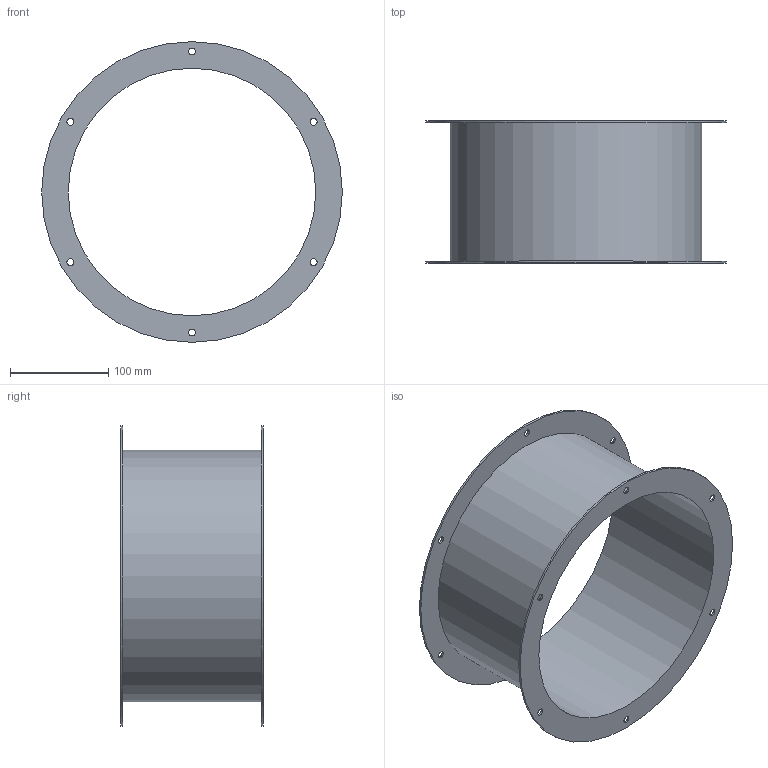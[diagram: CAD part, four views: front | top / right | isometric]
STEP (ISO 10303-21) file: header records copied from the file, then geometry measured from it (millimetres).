
FILE_DESCRIPTION(/* description */ (''),/* implementation_level */ '2;1');
FILE_NAME(/* name */ 'Z:\Output\STS_250-01220-001.stp',/* time_stamp */ '2020-02-14T13:34:43+01:00',/* author */ ('engineering1'),/* organization */ (''),/* preprocessor_version */ 'ST-DEVELOPER v17.2',/* originating_system */ 'Autodesk Inventor 2019',/* authorisation */ '');
FILE_SCHEMA (('AUTOMOTIVE_DESIGN { 1 0 10303 214 3 1 1 }'));
Length unit declared in the file: millimetre
Products named in the file (1): STS-1
Bounding box: 306 x 145 x 306 mm (x, y, z)
Volume: 318764.8 mm3; surface area: 323112.8 mm2
Topology: 1 solids, 1 shells, 20 faces, 54 edges, 38 vertices
Faces by surface type: cylinder 16, plane 4
Full cylindrical faces by diameter (mm): 7 x12, 252 x1, 256 x1, 306 x2
Entity records: 757 total; most frequent: DIRECTION 134, CARTESIAN_POINT 113, ORIENTED_EDGE 108, AXIS2_PLACEMENT_3D 59, EDGE_CURVE 54, EDGE_LOOP 48, CIRCLE 38, VERTEX_POINT 38
